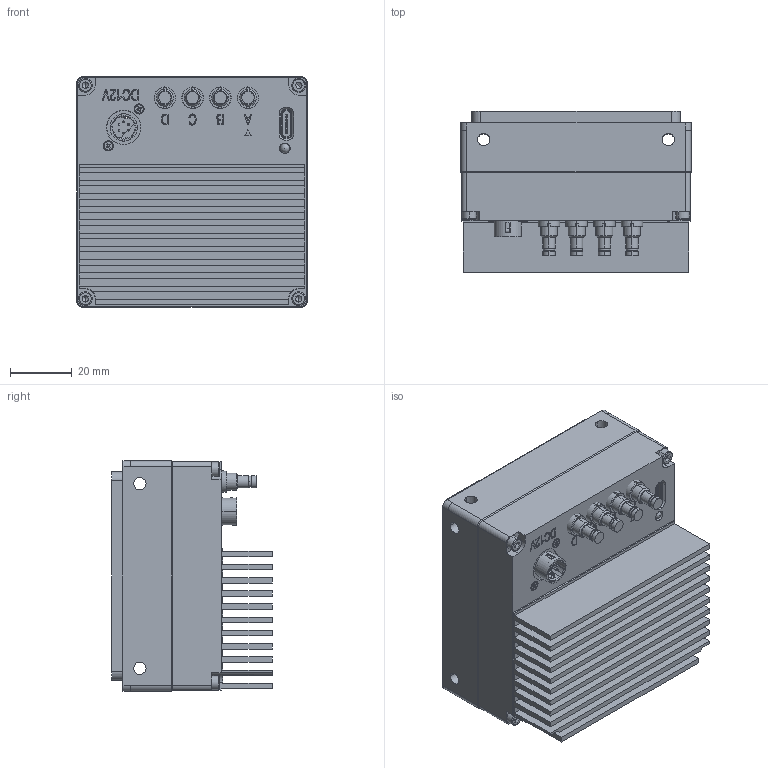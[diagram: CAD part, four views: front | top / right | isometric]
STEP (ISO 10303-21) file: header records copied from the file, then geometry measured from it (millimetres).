
FILE_DESCRIPTION (( 'STEP AP203' ), '1' );
FILE_NAME ('TS25MCXP6---.STEP', '2022-04-12T09:02:29', ( '微软用户' ), ( '微软中国' ), 'SwSTEP 2.0', 'SolidWorks 2017', '' );
FILE_SCHEMA (( 'CONFIG_CONTROL_DESIGN' ));
Length unit declared in the file: millimetre
Products named in the file (1): TS25MCXP6---
Bounding box: 75 x 52.29 x 75 mm (x, y, z)
Surface area: 53653.8 mm2 (no closed solid volume)
Topology: 0 solids, 55 shells, 548 faces, 2084 edges, 1531 vertices
Faces by surface type: plane 285, cylinder 174, cone 50, bspline 16, torus 16, sphere 7
Entity records: 23305 total; most frequent: CARTESIAN_POINT 5984, DIRECTION 3633, ORIENTED_EDGE 3137, EDGE_CURVE 2053, VERTEX_POINT 1523, VECTOR 1297, LINE 1297, AXIS2_PLACEMENT_3D 1168
